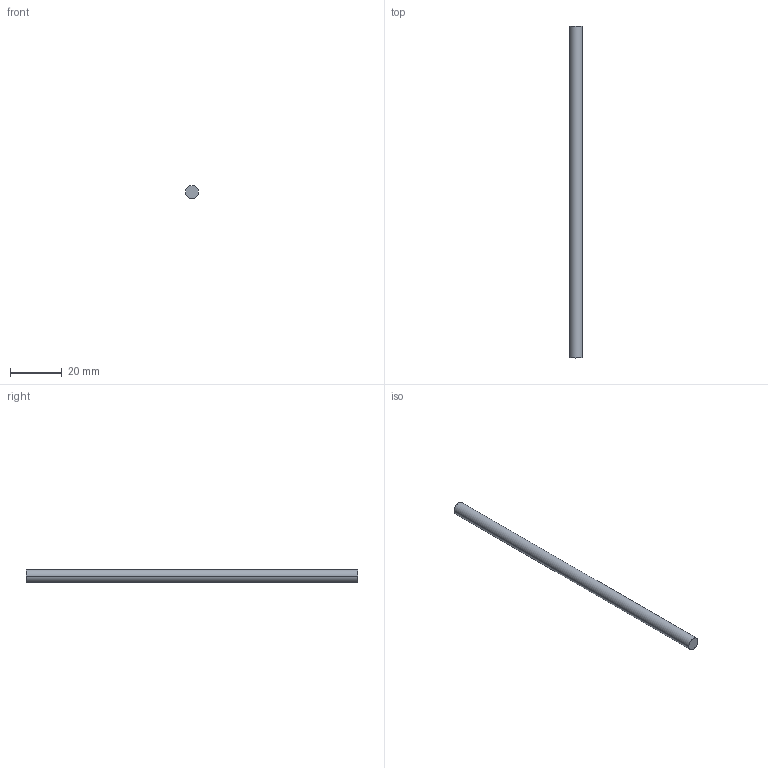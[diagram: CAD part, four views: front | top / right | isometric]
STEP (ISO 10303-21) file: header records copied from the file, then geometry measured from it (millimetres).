
FILE_DESCRIPTION((''),'2;1');
FILE_NAME('128MMAXIS','2022-08-24T09:14:54',('domen.bizjak'),('Audax d.o.o.'),'CREO PARAMETRIC BY PTC INC, 2021184','CREO PARAMETRIC BY PTC INC, 2021184','');
FILE_SCHEMA(('AP242_MANAGED_MODEL_BASED_3D_ENGINEERING_MIM_LF { 1 0 10303 442 1 1 4 }'));
Length unit declared in the file: millimetre
Products named in the file (1): 128MMAXIS
Bounding box: 5 x 128 x 5 mm (x, y, z)
Volume: 2513.3 mm3; surface area: 2049.9 mm2
Topology: 1 solids, 1 shells, 4 faces, 10 edges, 12 vertices
Faces by surface type: cylinder 2, plane 2
Entity records: 789 total; most frequent: COLOUR_RGB 319, DIRECTION 52, CARTESIAN_POINT 38, PROPERTY_DEFINITION 33, REPRESENTATION 31, PROPERTY_DEFINITION_REPRESENTATION 31, AXIS2_PLACEMENT_3D 23, GENERAL_PROPERTY 21
